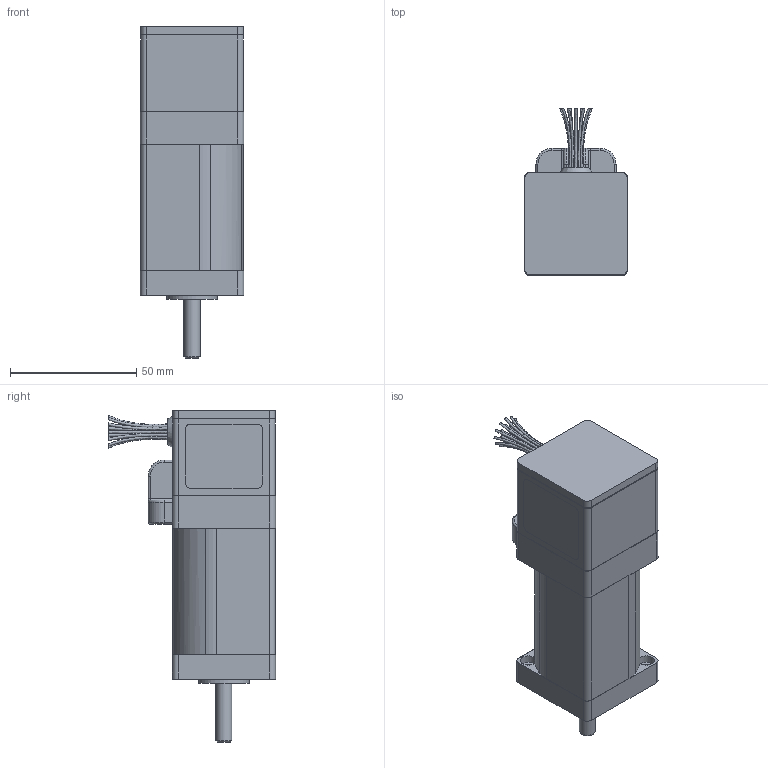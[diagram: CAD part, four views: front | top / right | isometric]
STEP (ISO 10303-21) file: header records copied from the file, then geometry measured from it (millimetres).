
FILE_DESCRIPTION((''),'2;1');
FILE_NAME('C:\CAD_work\Dummy_Modeling_Project_02-12-05\3D MODELS\BE164_FL.stp','2005-12-20T15:14:18',('jevans'),(''),'Autodesk Inventor 10','Autodesk Inventor 10','');
FILE_SCHEMA(('AUTOMOTIVE_DESIGN { 1 0 10303 214 1 1 1 1 }'));
Length unit declared in the file: inch
Products named in the file (1): BE16_FL
Bounding box: 40.89 x 66.17 x 131.47 mm (x, y, z)
Volume: 173284 mm3; surface area: 24666.9 mm2
Topology: 1 solids, 1 shells, 210 faces, 503 edges, 310 vertices
Faces by surface type: plane 100, cylinder 71, bspline 28, torus 10, cone 1
Full cylindrical faces by diameter (mm): 1.7 x2, 6.35 x2, 8.992 x1, 11.176 x1, 15.697 x1, 17 x1, 17.018 x2, 18.009 x1, 20.015 x1
Entity records: 8246 total; most frequent: CARTESIAN_POINT 3418, DIRECTION 1019, ORIENTED_EDGE 948, EDGE_CURVE 474, AXIS2_PLACEMENT_3D 410, VERTEX_POINT 303, EDGE_LOOP 279, CIRCLE 215
